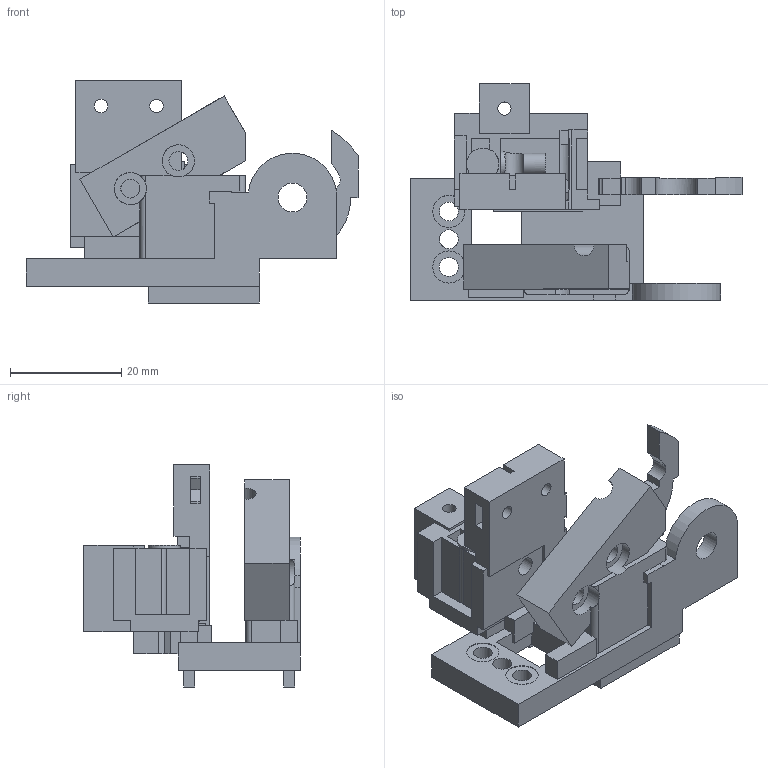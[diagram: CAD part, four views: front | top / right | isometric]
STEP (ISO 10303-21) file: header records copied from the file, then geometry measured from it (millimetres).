
FILE_DESCRIPTION(('Open CASCADE Model'),'2;1');
FILE_NAME('P01-P01_carrier.step', '', ('Noah Wilson'), (''), '', '', '');
FILE_SCHEMA(('AUTOMOTIVE_DESIGN { 1 0 10303 214 1 1 1 1 }'));
Length unit declared in the file: millimetre
Products named in the file (1): COMPOUND
Bounding box: 59.8 x 39 x 40 mm (x, y, z)
Volume: 17460.7 mm3; surface area: 10808.5 mm2
Topology: 1 solids, 1 shells, 267 faces, 792 edges, 526 vertices
Faces by surface type: plane 214, cylinder 52, cone 1
Full cylindrical faces by diameter (mm): 2.4 x5, 2.5 x1, 3.4 x6, 3.9 x1, 5.2 x1, 5.8 x5
Entity records: 20505 total; most frequent: CARTESIAN_POINT 5174, DIRECTION 2686, LINE 1851, VECTOR 1851, ORIENTED_EDGE 1584, PCURVE 1584, DEFINITIONAL_REPRESENTATION 1584, EDGE_CURVE 792
